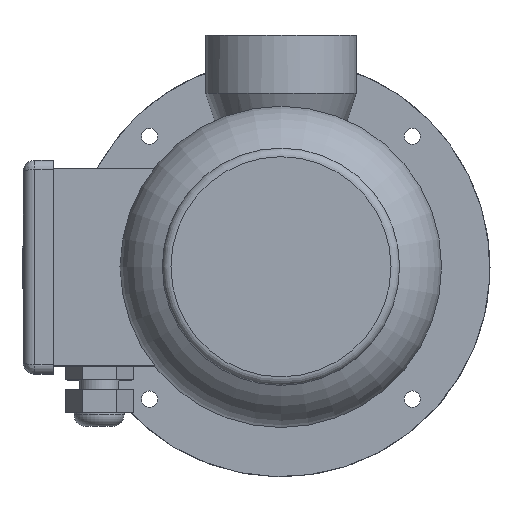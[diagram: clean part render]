
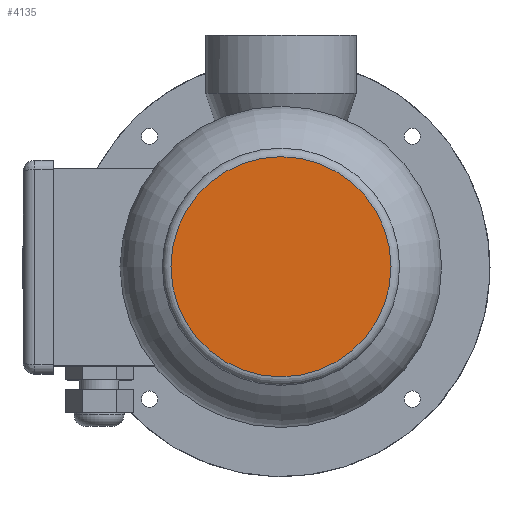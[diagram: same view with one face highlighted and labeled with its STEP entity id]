
A CAD part, top view. The second image highlights one B-rep face of the part: STEP entity #4135.
In plain terms, the highlighted planar face has unit normal (0, 0, 1).
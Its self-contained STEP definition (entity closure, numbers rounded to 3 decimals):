
#754=CIRCLE('',#4487,47.382);
#1118=ORIENTED_EDGE('',*,*,#2284,.F.);
#2284=EDGE_CURVE('',#2861,#2861,#754,.T.);
#2861=VERTEX_POINT('',#7806);
#3348=EDGE_LOOP('',(#1118));
#3711=FACE_BOUND('',#3348,.T.);
#4004=PLANE('',#4486);
#4135=ADVANCED_FACE('',(#3711),#4004,.F.);
#4486=AXIS2_PLACEMENT_3D('',#7804,#5030,#5031);
#4487=AXIS2_PLACEMENT_3D('',#7805,#5032,#5033);
#5030=DIRECTION('',(0.,0.,-1.));
#5031=DIRECTION('',(-1.,0.,0.));
#5032=DIRECTION('',(0.,0.,-1.));
#5033=DIRECTION('',(-1.,0.,0.));
#7804=CARTESIAN_POINT('',(0.,0.,426.962));
#7805=CARTESIAN_POINT('',(0.,0.,426.962));
#7806=CARTESIAN_POINT('',(-47.382,0.,426.962));
